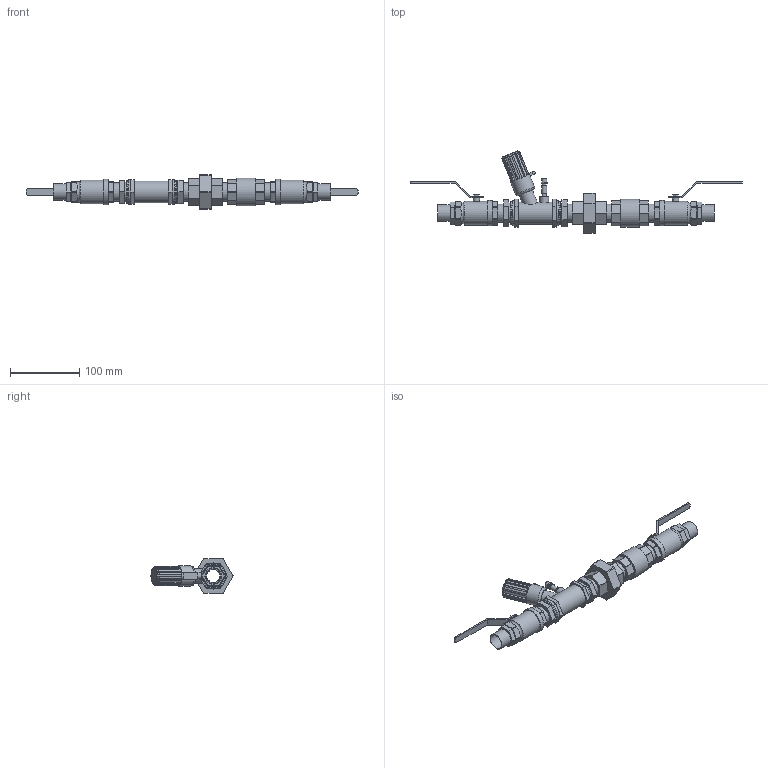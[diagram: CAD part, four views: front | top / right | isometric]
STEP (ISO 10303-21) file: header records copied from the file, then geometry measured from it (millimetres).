
FILE_DESCRIPTION(/* description */ ('VIC DOMESTIC WATER KIT FOR HYDRONIC BALANCING WITH PT PORT SERIES 7WT (SWT)','CAx-IF Rec.Pracs.---Representation and Presentation of Product Manufacturing Information (PMI)---4.0---2014-10-13'),/* implementation_level */ '2;1');
FILE_NAME(/* name */ 'C:\Users\kkamble\AppData\Roaming\Autodesk\ApplicationPlugins\Victaulic.Temp\A577\Victaulic_Domestic Water Kit for Hydronic Balancing With PT Port_Series 7WT (CPF)_SWT_0.75 (20).stp',/* time_stamp */ '2021-08-10T11:13:07+06:00',/* author */ ('kkamble'),/* organization */ ('Victaulic'),/* preprocessor_version */ 'ST-DEVELOPER v17.2',/* originating_system */ 'Autodesk Inventor 2019',/* authorisation */ '');
FILE_SCHEMA (('AP242_MANAGED_MODEL_BASED_3D_ENGINEERING_MIM_LF { 1 0 10303 442 1 1 4 }'));
Length unit declared in the file: inch
Products named in the file (7): 7WT_SWT-0.75; Adapter_Sweat_604-0.75; 722L_Swt-0.75; Nipple_BR_386-0.75 (4); 7TZ-0.75; Union_BR_386-0.75; Check_Valve_4133-0.75
Assembly tree (11 placements, depth 2):
  7WT_SWT-0.75
    Adapter_Sweat_604-0.75  x2
    722L_Swt-0.75  x2
    Nipple_BR_386-0.75 (4)  x4
    7TZ-0.75
    Union_BR_386-0.75
    Check_Valve_4133-0.75
Bounding box: 479.55 x 118.46 x 49.78 mm (x, y, z)
Volume: 251669 mm3; surface area: 126318.9 mm2
Topology: 12 solids, 12 shells, 447 faces, 1189 edges, 810 vertices
Faces by surface type: plane 325, cylinder 116, torus 4, cone 2
Full cylindrical faces by diameter (mm): 4.572 x2, 5.08 x1, 6.35 x3, 7.62 x2, 8.763 x2, 12.7 x1, 18.847 x2, 20.32 x1, 20.879 x4, 20.93 x6, 22.225 x2, 23.851 x2, 26.67 x17, 29.21 x3, 31.75 x1, 33.782 x2, 34.052 x2, 35.56 x2, 36.83 x2, 39.751 x1
Entity records: 12079 total; most frequent: CARTESIAN_POINT 2469, DIRECTION 1879, ORIENTED_EDGE 1860, EDGE_CURVE 930, AXIS2_PLACEMENT_3D 647, VERTEX_POINT 629, LINE 585, VECTOR 585
